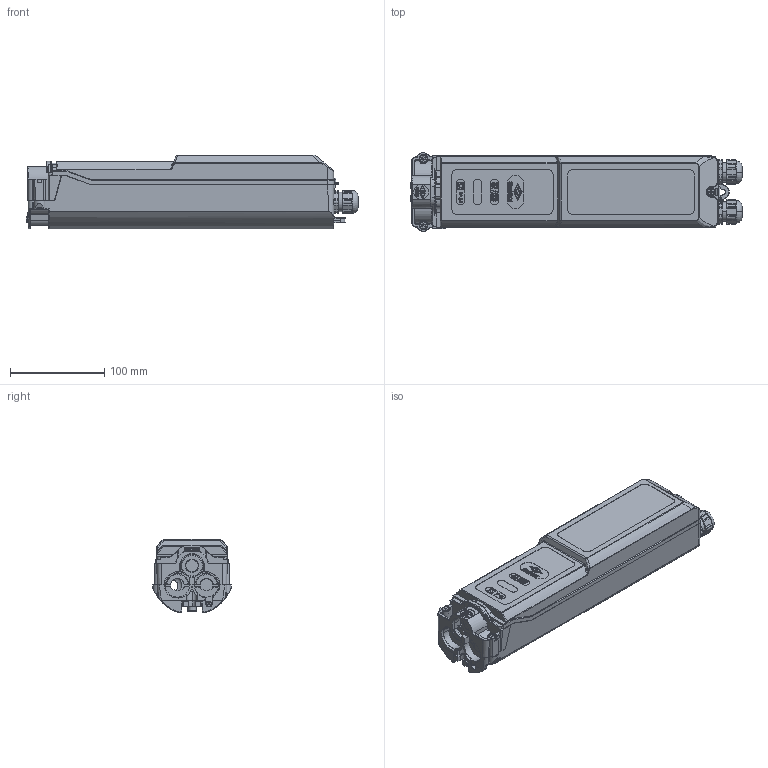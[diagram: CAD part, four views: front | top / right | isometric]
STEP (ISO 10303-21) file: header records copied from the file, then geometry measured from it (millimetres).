
FILE_DESCRIPTION (( 'STEP AP203' ), '1' );
FILE_NAME ('3D - HSW2525-M20 Außenkontur.STEP', '2019-06-28T09:20:56', ( '' ), ( '' ), 'SwSTEP 2.0', 'SolidWorks 2013', '' );
FILE_SCHEMA (( 'CONFIG_CONTROL_DESIGN' ));
Length unit declared in the file: millimetre
Products named in the file (1): 3D - HSW2525-M20 Außenkontur
Bounding box: 353.13 x 83.5 x 78.61 mm (x, y, z)
Surface area: 130714.8 mm2 (no closed solid volume)
Topology: 0 solids, 27 shells, 1293 faces, 4574 edges, 3223 vertices
Faces by surface type: plane 578, cylinder 381, bspline 144, cone 95, torus 85, sphere 10
Entity records: 59532 total; most frequent: CARTESIAN_POINT 22668, ORIENTED_EDGE 7488, DIRECTION 6944, EDGE_CURVE 4564, VERTEX_POINT 3223, LINE 2632, VECTOR 2632, AXIS2_PLACEMENT_3D 2156
